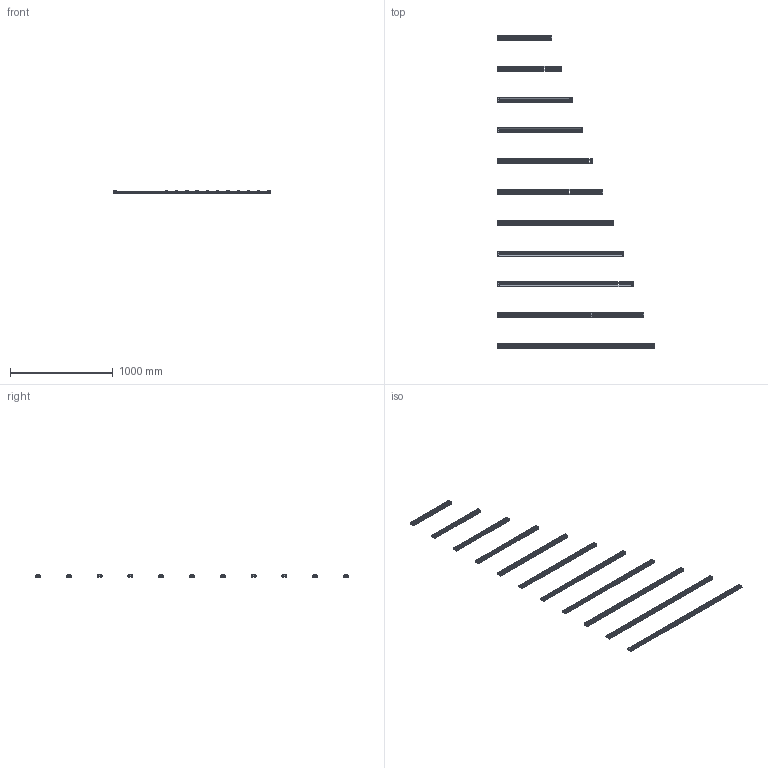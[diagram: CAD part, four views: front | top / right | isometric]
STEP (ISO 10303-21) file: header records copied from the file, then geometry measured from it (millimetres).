
FILE_DESCRIPTION(/* description */ (''),/* implementation_level */ '2;1');
FILE_NAME(/* name */ 'C:/Users/elena/OneDrive/Allegati di posta elettronica/Desktop/Piko double 02A.step',/* time_stamp */ '2020-05-20T16:47:21+02:00',/* author */ (''),/* organization */ (''),/* preprocessor_version */ 'ST-DEVELOPER v18.1',/* originating_system */ 'Autodesk Translation Framework v9.3.0.1241',/* authorisation */ '');
FILE_SCHEMA (('AUTOMOTIVE_DESIGN { 1 0 10303 214 3 1 1 }'));
Products named in the file (2): Piko double 02A; 02A
Assembly tree (1 placements, depth 2):
  Piko double 02A
    02A
Bounding box: 1524 x 3050.02 x 28 mm (x, y, z)
Volume: 5493995.3 mm3; surface area: 2695155.5 mm2
Topology: 110 solids, 110 shells, 5792 faces, 15946 edges, 10594 vertices
Faces by surface type: plane 3570, cylinder 2178, cone 44
Full cylindrical faces by diameter (mm): 2.5 x88, 3 x44, 6 x22, 19.8 x44
Entity records: 185189 total; most frequent: CARTESIAN_POINT 32335, DIRECTION 31936, ORIENTED_EDGE 31892, EDGE_CURVE 15946, LINE 11546, VECTOR 11546, VERTEX_POINT 10594, AXIS2_PLACEMENT_3D 10195
